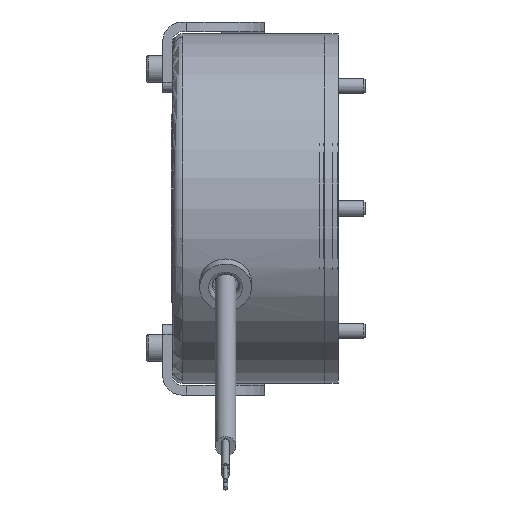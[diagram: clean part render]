
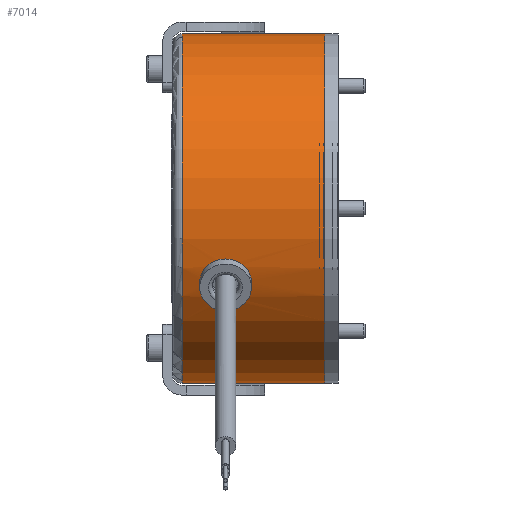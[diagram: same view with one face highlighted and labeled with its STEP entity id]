
A CAD part, front view. The second image highlights one B-rep face of the part: STEP entity #7014.
In plain terms, the highlighted cylindrical face has radius 44.5 mm (diameter 89 mm), a full revolution.
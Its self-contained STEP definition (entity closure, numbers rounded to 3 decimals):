
#164=B_SPLINE_CURVE_WITH_KNOTS('',3,(#11743,#11744,#11745,#11746,#11747,
#11748,#11749,#11750,#11751,#11752,#11753,#11754,#11755,#11756,#11757,#11758,
#11759,#11760),.UNSPECIFIED.,.F.,.F.,(4,2,2,2,2,2,2,2,4),(0.767,
0.959,1.15,1.342,1.533,1.725,
1.917,2.108,2.3),.UNSPECIFIED.);
#165=B_SPLINE_CURVE_WITH_KNOTS('',3,(#11763,#11764,#11765,#11766,#11767,
#11768,#11769,#11770,#11771,#11772,#11773,#11774,#11775,#11776,#11777,#11778,
#11779,#11780,#11781),.UNSPECIFIED.,.F.,.F.,(4,2,2,2,3,2,2,2,4),(2.3,
2.492,2.684,2.875,3.067,3.258,
3.449,3.642,3.834),.UNSPECIFIED.);
#325=CYLINDRICAL_SURFACE('',#7629,44.5);
#442=FACE_BOUND('',#1504,.T.);
#701=CIRCLE('',#7630,44.5);
#702=CIRCLE('',#7631,44.5);
#703=CIRCLE('',#7632,44.5);
#704=CIRCLE('',#7633,44.5);
#705=CIRCLE('',#7634,44.5);
#1105=FACE_OUTER_BOUND('',#1503,.T.);
#1503=EDGE_LOOP('',(#5290,#5291,#5292,#5293,#5294,#5295,#5296));
#1504=EDGE_LOOP('',(#5297,#5298,#5299,#5300,#5301,#5302));
#1907=LINE('',#11870,#2299);
#1908=LINE('',#11876,#2300);
#1909=LINE('',#11877,#2301);
#2299=VECTOR('',#9008,44.5);
#2300=VECTOR('',#9015,10.);
#2301=VECTOR('',#9016,10.);
#2891=VERTEX_POINT('',#11634);
#2892=VERTEX_POINT('',#11635);
#2893=VERTEX_POINT('',#11637);
#2894=VERTEX_POINT('',#11639);
#2913=VERTEX_POINT('',#11865);
#2914=VERTEX_POINT('',#11866);
#2915=VERTEX_POINT('',#11869);
#2916=VERTEX_POINT('',#11871);
#2917=VERTEX_POINT('',#11873);
#3754=EDGE_CURVE('',#2892,#2893,#164,.T.);
#3756=EDGE_CURVE('',#2893,#2892,#165,.T.);
#3771=EDGE_CURVE('',#2913,#2914,#701,.T.);
#3772=EDGE_CURVE('',#2914,#2913,#702,.T.);
#3773=EDGE_CURVE('',#2914,#2915,#1907,.T.);
#3774=EDGE_CURVE('',#2916,#2915,#703,.T.);
#3775=EDGE_CURVE('',#2917,#2916,#704,.T.);
#3776=EDGE_CURVE('',#2915,#2917,#705,.T.);
#3777=EDGE_CURVE('',#2893,#2894,#1908,.T.);
#3778=EDGE_CURVE('',#2891,#2892,#1909,.T.);
#5290=ORIENTED_EDGE('',*,*,#3771,.F.);
#5291=ORIENTED_EDGE('',*,*,#3772,.F.);
#5292=ORIENTED_EDGE('',*,*,#3773,.T.);
#5293=ORIENTED_EDGE('',*,*,#3774,.F.);
#5294=ORIENTED_EDGE('',*,*,#3775,.F.);
#5295=ORIENTED_EDGE('',*,*,#3776,.F.);
#5296=ORIENTED_EDGE('',*,*,#3773,.F.);
#5297=ORIENTED_EDGE('',*,*,#3777,.T.);
#5298=ORIENTED_EDGE('',*,*,#3777,.F.);
#5299=ORIENTED_EDGE('',*,*,#3756,.T.);
#5300=ORIENTED_EDGE('',*,*,#3778,.F.);
#5301=ORIENTED_EDGE('',*,*,#3778,.T.);
#5302=ORIENTED_EDGE('',*,*,#3754,.T.);
#7014=ADVANCED_FACE('',(#1105,#442),#325,.T.);
#7629=AXIS2_PLACEMENT_3D('',#11864,#9002,#9003);
#7630=AXIS2_PLACEMENT_3D('',#11867,#9004,#9005);
#7631=AXIS2_PLACEMENT_3D('',#11868,#9006,#9007);
#7632=AXIS2_PLACEMENT_3D('',#11872,#9009,#9010);
#7633=AXIS2_PLACEMENT_3D('',#11874,#9011,#9012);
#7634=AXIS2_PLACEMENT_3D('',#11875,#9013,#9014);
#9002=DIRECTION('center_axis',(1.,0.,0.));
#9003=DIRECTION('ref_axis',(0.,1.,0.));
#9004=DIRECTION('center_axis',(1.,0.,0.));
#9005=DIRECTION('ref_axis',(0.,1.,0.));
#9006=DIRECTION('center_axis',(1.,0.,0.));
#9007=DIRECTION('ref_axis',(0.,1.,0.));
#9008=DIRECTION('',(-1.,0.,0.));
#9009=DIRECTION('center_axis',(-1.,0.,0.));
#9010=DIRECTION('ref_axis',(0.,-1.,0.));
#9011=DIRECTION('center_axis',(-1.,0.,0.));
#9012=DIRECTION('ref_axis',(0.,-1.,0.));
#9013=DIRECTION('center_axis',(-1.,0.,0.));
#9014=DIRECTION('ref_axis',(0.,-1.,0.));
#9015=DIRECTION('',(1.,0.,0.));
#9016=DIRECTION('',(1.,0.,0.));
#11634=CARTESIAN_POINT('',(-31.8,-40.331,-18.807));
#11635=CARTESIAN_POINT('',(-30.3,-40.331,-18.807));
#11637=CARTESIAN_POINT('',(-20.1,-40.331,-18.807));
#11639=CARTESIAN_POINT('',(-18.6,-40.331,-18.807));
#11743=CARTESIAN_POINT('Ctrl Pts',(-30.3,-40.331,-18.807));
#11744=CARTESIAN_POINT('Ctrl Pts',(-30.3,-40.601,-18.227));
#11745=CARTESIAN_POINT('Ctrl Pts',(-30.171,-40.875,-17.603));
#11746=CARTESIAN_POINT('Ctrl Pts',(-29.647,-41.354,-16.446));
#11747=CARTESIAN_POINT('Ctrl Pts',(-29.253,-41.56,
-15.914));
#11748=CARTESIAN_POINT('Ctrl Pts',(-28.346,-41.873,
-15.069));
#11749=CARTESIAN_POINT('Ctrl Pts',(-27.773,-42.002,
-14.701));
#11750=CARTESIAN_POINT('Ctrl Pts',(-26.52,-42.17,
-14.212));
#11751=CARTESIAN_POINT('Ctrl Pts',(-25.838,-42.21,
-14.091));
#11752=CARTESIAN_POINT('Ctrl Pts',(-24.562,-42.21,
-14.091));
#11753=CARTESIAN_POINT('Ctrl Pts',(-23.88,-42.17,
-14.212));
#11754=CARTESIAN_POINT('Ctrl Pts',(-22.627,-42.002,
-14.701));
#11755=CARTESIAN_POINT('Ctrl Pts',(-22.054,-41.873,
-15.069));
#11756=CARTESIAN_POINT('Ctrl Pts',(-21.147,-41.56,
-15.914));
#11757=CARTESIAN_POINT('Ctrl Pts',(-20.753,-41.354,-16.446));
#11758=CARTESIAN_POINT('Ctrl Pts',(-20.229,-40.875,-17.603));
#11759=CARTESIAN_POINT('Ctrl Pts',(-20.1,-40.601,-18.227));
#11760=CARTESIAN_POINT('Ctrl Pts',(-20.1,-40.331,-18.807));
#11763=CARTESIAN_POINT('Ctrl Pts',(-20.1,-40.331,-18.807));
#11764=CARTESIAN_POINT('Ctrl Pts',(-20.1,-40.06,-19.386));
#11765=CARTESIAN_POINT('Ctrl Pts',(-20.229,-39.759,-19.997));
#11766=CARTESIAN_POINT('Ctrl Pts',(-20.753,-39.181,
-21.108));
#11767=CARTESIAN_POINT('Ctrl Pts',(-21.147,-38.905,
-21.608));
#11768=CARTESIAN_POINT('Ctrl Pts',(-22.054,-38.459,
-22.39));
#11769=CARTESIAN_POINT('Ctrl Pts',(-22.627,-38.26,
-22.726));
#11770=CARTESIAN_POINT('Ctrl Pts',(-23.88,-37.994,
-23.169));
#11771=CARTESIAN_POINT('Ctrl Pts',(-24.562,-37.927,
-23.277));
#11772=CARTESIAN_POINT('Ctrl Pts',(-25.2,-37.927,-23.277));
#11773=CARTESIAN_POINT('Ctrl Pts',(-25.837,-37.927,
-23.277));
#11774=CARTESIAN_POINT('Ctrl Pts',(-26.517,-37.993,
-23.169));
#11775=CARTESIAN_POINT('Ctrl Pts',(-27.77,-38.259,
-22.727));
#11776=CARTESIAN_POINT('Ctrl Pts',(-28.342,-38.458,
-22.393));
#11777=CARTESIAN_POINT('Ctrl Pts',(-29.25,-38.903,
-21.611));
#11778=CARTESIAN_POINT('Ctrl Pts',(-29.645,-39.179,
-21.111));
#11779=CARTESIAN_POINT('Ctrl Pts',(-30.17,-39.758,-19.999));
#11780=CARTESIAN_POINT('Ctrl Pts',(-30.3,-40.06,-19.387));
#11781=CARTESIAN_POINT('Ctrl Pts',(-30.3,-40.331,-18.807));
#11864=CARTESIAN_POINT('Origin',(-19.35,0.,0.));
#11865=CARTESIAN_POINT('',(0.,44.5,0.));
#11866=CARTESIAN_POINT('',(0.,-44.5,0.));
#11867=CARTESIAN_POINT('Origin',(0.,0.,0.));
#11868=CARTESIAN_POINT('Origin',(0.,0.,0.));
#11869=CARTESIAN_POINT('',(-36.2,-44.5,0.));
#11870=CARTESIAN_POINT('',(-19.35,-44.5,0.));
#11871=CARTESIAN_POINT('',(-36.2,44.5,0.));
#11872=CARTESIAN_POINT('Origin',(-36.2,0.,0.));
#11873=CARTESIAN_POINT('',(-36.2,0.,44.5));
#11874=CARTESIAN_POINT('Origin',(-36.2,0.,0.));
#11875=CARTESIAN_POINT('Origin',(-36.2,0.,0.));
#11876=CARTESIAN_POINT('',(-19.35,-40.331,-18.807));
#11877=CARTESIAN_POINT('',(-19.35,-40.331,-18.807));
